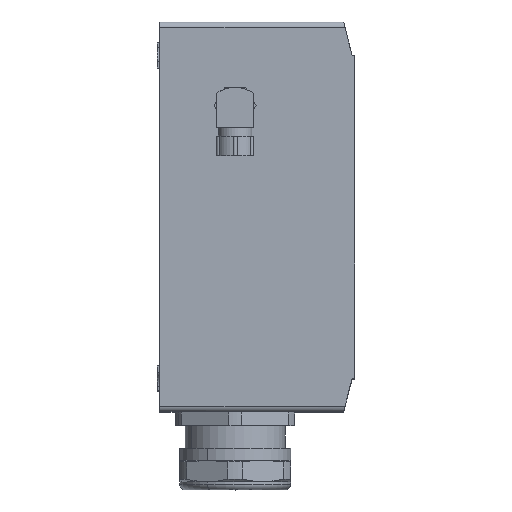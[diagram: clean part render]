
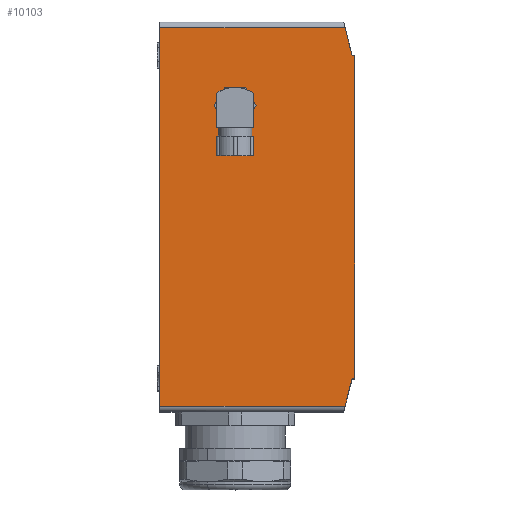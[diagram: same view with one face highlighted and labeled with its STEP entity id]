
A CAD part, top view. The second image highlights one B-rep face of the part: STEP entity #10103.
In plain terms, the highlighted planar face has unit normal (0, 0, 1) as drawn and (0, 0, -1) by its records, which use the part's own axes.
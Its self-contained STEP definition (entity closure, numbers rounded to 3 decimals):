
#147 = CARTESIAN_POINT ( 'NONE',  ( -112.15, 25., -113.5 ) ) ;
#153 = PLANE ( 'NONE',  #463 ) ;
#155 = DIRECTION ( 'NONE',  ( 0., 0., 1. ) ) ;
#156 = DIRECTION ( 'NONE',  ( 0., 1., 0. ) ) ;
#463 = AXIS2_PLACEMENT_3D ( 'NONE', #147, #155, #156 ) ;
#2205 = EDGE_LOOP ( 'NONE', ( #6678, #7065, #7031, #7049, #7027, #6984 ) ) ;
#2268 = EDGE_LOOP ( 'NONE', ( #6670, #6694, #6671, #6825, #6945, #6688, #6250, #6676 ) ) ;
#6250 = ORIENTED_EDGE ( 'NONE', *, *, #17420, .T. ) ;
#6670 = ORIENTED_EDGE ( 'NONE', *, *, #17319, .F. ) ;
#6671 = ORIENTED_EDGE ( 'NONE', *, *, #17417, .F. ) ;
#6676 = ORIENTED_EDGE ( 'NONE', *, *, #17302, .T. ) ;
#6678 = ORIENTED_EDGE ( 'NONE', *, *, #17299, .F. ) ;
#6688 = ORIENTED_EDGE ( 'NONE', *, *, #17423, .F. ) ;
#6694 = ORIENTED_EDGE ( 'NONE', *, *, #17411, .F. ) ;
#6825 = ORIENTED_EDGE ( 'NONE', *, *, #17402, .T. ) ;
#6945 = ORIENTED_EDGE ( 'NONE', *, *, #17324, .F. ) ;
#6984 = ORIENTED_EDGE ( 'NONE', *, *, #17277, .F. ) ;
#7027 = ORIENTED_EDGE ( 'NONE', *, *, #17307, .F. ) ;
#7031 = ORIENTED_EDGE ( 'NONE', *, *, #17263, .F. ) ;
#7049 = ORIENTED_EDGE ( 'NONE', *, *, #17258, .F. ) ;
#7065 = ORIENTED_EDGE ( 'NONE', *, *, #17298, .F. ) ;
#10103 = ADVANCED_FACE ( 'NONE', ( #17222, #17217 ), #153, .F. ) ;
#10804 = VERTEX_POINT ( 'NONE', #15677 ) ;
#10915 = VERTEX_POINT ( 'NONE', #12776 ) ;
#11144 = VERTEX_POINT ( 'NONE', #13154 ) ;
#11218 = VERTEX_POINT ( 'NONE', #13311 ) ;
#11231 = VERTEX_POINT ( 'NONE', #13319 ) ;
#11300 = VERTEX_POINT ( 'NONE', #13442 ) ;
#11336 = VERTEX_POINT ( 'NONE', #13522 ) ;
#11381 = VERTEX_POINT ( 'NONE', #13613 ) ;
#11420 = VERTEX_POINT ( 'NONE', #13686 ) ;
#11440 = VERTEX_POINT ( 'NONE', #13727 ) ;
#11476 = VERTEX_POINT ( 'NONE', #13796 ) ;
#11581 = VERTEX_POINT ( 'NONE', #13964 ) ;
#12776 = CARTESIAN_POINT ( 'NONE',  ( -4.15, 7.506, -113.5 ) ) ;
#13154 = CARTESIAN_POINT ( 'NONE',  ( -10.65, 3.753, -113.5 ) ) ;
#13311 = CARTESIAN_POINT ( 'NONE',  ( 2.35, 3.753, -113.5 ) ) ;
#13319 = CARTESIAN_POINT ( 'NONE',  ( -4.15, -7.506, -113.5 ) ) ;
#13378 = LINE ( 'NONE', #14714, #13417 ) ;
#13408 = LINE ( 'NONE', #14726, #13422 ) ;
#13417 = VECTOR ( 'NONE', #14717, 1000. ) ;
#13422 = VECTOR ( 'NONE', #14729, 1000. ) ;
#13442 = CARTESIAN_POINT ( 'NONE',  ( -102.15, 43., -113.5 ) ) ;
#13454 = LINE ( 'NONE', #14758, #13473 ) ;
#13473 = VECTOR ( 'NONE', #14754, 1000. ) ;
#13522 = CARTESIAN_POINT ( 'NONE',  ( -10.65, -3.753, -113.5 ) ) ;
#13547 = LINE ( 'NONE', #14807, #13558 ) ;
#13556 = LINE ( 'NONE', #14814, #13564 ) ;
#13558 = VECTOR ( 'NONE', #14813, 1000. ) ;
#13564 = VECTOR ( 'NONE', #14815, 1000. ) ;
#13571 = LINE ( 'NONE', #14820, #13581 ) ;
#13581 = VECTOR ( 'NONE', #14822, 1000. ) ;
#13599 = LINE ( 'NONE', #14830, #13607 ) ;
#13607 = VECTOR ( 'NONE', #14831, 1000. ) ;
#13613 = CARTESIAN_POINT ( 'NONE',  ( -102.15, 42., -113.5 ) ) ;
#13636 = LINE ( 'NONE', #14843, #13640 ) ;
#13640 = VECTOR ( 'NONE', #14851, 1000. ) ;
#13650 = LINE ( 'NONE', #14861, #13658 ) ;
#13658 = VECTOR ( 'NONE', #14862, 1000. ) ;
#13686 = CARTESIAN_POINT ( 'NONE',  ( 2.35, -3.753, -113.5 ) ) ;
#13727 = CARTESIAN_POINT ( 'NONE',  ( 13.85, 43., -113.5 ) ) ;
#13796 = CARTESIAN_POINT ( 'NONE',  ( 13.85, 42., -113.5 ) ) ;
#13813 = LINE ( 'NONE', #14953, #13821 ) ;
#13821 = VECTOR ( 'NONE', #14954, 1000. ) ;
#13832 = LINE ( 'NONE', #14974, #13841 ) ;
#13841 = VECTOR ( 'NONE', #14975, 1000. ) ;
#13847 = LINE ( 'NONE', #14980, #13857 ) ;
#13857 = VECTOR ( 'NONE', #14981, 1000. ) ;
#13860 = LINE ( 'NONE', #14984, #13867 ) ;
#13864 = LINE ( 'NONE', #14986, #13875 ) ;
#13867 = VECTOR ( 'NONE', #14985, 1000. ) ;
#13875 = VECTOR ( 'NONE', #14987, 1000. ) ;
#13964 = CARTESIAN_POINT ( 'NONE',  ( 23.85, 39.5, -113.5 ) ) ;
#14231 = CARTESIAN_POINT ( 'NONE',  ( -112.15, -27., -113.5 ) ) ;
#14534 = CARTESIAN_POINT ( 'NONE',  ( 23.85, -27., -113.5 ) ) ;
#14714 = CARTESIAN_POINT ( 'NONE',  ( -4.15, 7.506, -113.5 ) ) ;
#14717 = DIRECTION ( 'NONE',  ( 0.866, -0.5, 0. ) ) ;
#14726 = CARTESIAN_POINT ( 'NONE',  ( 2.35, -3.753, -113.5 ) ) ;
#14729 = DIRECTION ( 'NONE',  ( 0., -1., 0. ) ) ;
#14754 = DIRECTION ( 'NONE',  ( 0., 1., 0. ) ) ;
#14758 = CARTESIAN_POINT ( 'NONE',  ( -10.65, -3.753, -113.5 ) ) ;
#14807 = CARTESIAN_POINT ( 'NONE',  ( -4.15, -7.506, -113.5 ) ) ;
#14813 = DIRECTION ( 'NONE',  ( -0.866, -0.5, 0. ) ) ;
#14814 = CARTESIAN_POINT ( 'NONE',  ( -10.65, -3.753, -113.5 ) ) ;
#14815 = DIRECTION ( 'NONE',  ( -0.866, 0.5, 0. ) ) ;
#14820 = CARTESIAN_POINT ( 'NONE',  ( -112.15, -27., -113.5 ) ) ;
#14822 = DIRECTION ( 'NONE',  ( -1., 0., 0. ) ) ;
#14830 = CARTESIAN_POINT ( 'NONE',  ( -10.65, 3.753, -113.5 ) ) ;
#14831 = DIRECTION ( 'NONE',  ( 0.866, 0.5, 0. ) ) ;
#14843 = CARTESIAN_POINT ( 'NONE',  ( -112.15, 25., -113.5 ) ) ;
#14851 = DIRECTION ( 'NONE',  ( 0., -1., 0. ) ) ;
#14861 = CARTESIAN_POINT ( 'NONE',  ( 13.85, 42., -113.5 ) ) ;
#14862 = DIRECTION ( 'NONE',  ( 0., 1., 0. ) ) ;
#14953 = CARTESIAN_POINT ( 'NONE',  ( 23.85, 43., -113.5 ) ) ;
#14954 = DIRECTION ( 'NONE',  ( 1., 0., 0. ) ) ;
#14974 = CARTESIAN_POINT ( 'NONE',  ( -114.15, 39., -113.5 ) ) ;
#14975 = DIRECTION ( 'NONE',  ( -0.97, -0.243, 0. ) ) ;
#14980 = CARTESIAN_POINT ( 'NONE',  ( -102.15, 42., -113.5 ) ) ;
#14981 = DIRECTION ( 'NONE',  ( 0., -1., 0. ) ) ;
#14984 = CARTESIAN_POINT ( 'NONE',  ( 23.85, 25., -113.5 ) ) ;
#14985 = DIRECTION ( 'NONE',  ( 0., -1., 0. ) ) ;
#14986 = CARTESIAN_POINT ( 'NONE',  ( 25.85, 39., -113.5 ) ) ;
#14987 = DIRECTION ( 'NONE',  ( -0.97, 0.243, 0. ) ) ;
#15677 = CARTESIAN_POINT ( 'NONE',  ( -112.15, 39.5, -113.5 ) ) ;
#16064 = VERTEX_POINT ( 'NONE', #14231 ) ;
#16253 = VERTEX_POINT ( 'NONE', #14534 ) ;
#17217 = FACE_BOUND ( 'NONE', #2205, .T. ) ;
#17222 = FACE_OUTER_BOUND ( 'NONE', #2268, .T. ) ;
#17258 = EDGE_CURVE ( 'NONE', #10915, #11218, #13378, .T. ) ;
#17263 = EDGE_CURVE ( 'NONE', #11218, #11420, #13408, .T. ) ;
#17277 = EDGE_CURVE ( 'NONE', #11336, #11144, #13454, .T. ) ;
#17298 = EDGE_CURVE ( 'NONE', #11420, #11231, #13547, .T. ) ;
#17299 = EDGE_CURVE ( 'NONE', #11231, #11336, #13556, .T. ) ;
#17302 = EDGE_CURVE ( 'NONE', #16253, #16064, #13571, .T. ) ;
#17307 = EDGE_CURVE ( 'NONE', #11144, #10915, #13599, .T. ) ;
#17319 = EDGE_CURVE ( 'NONE', #10804, #16064, #13636, .T. ) ;
#17324 = EDGE_CURVE ( 'NONE', #11476, #11440, #13650, .T. ) ;
#17402 = EDGE_CURVE ( 'NONE', #11300, #11440, #13813, .T. ) ;
#17411 = EDGE_CURVE ( 'NONE', #11381, #10804, #13832, .T. ) ;
#17417 = EDGE_CURVE ( 'NONE', #11300, #11381, #13847, .T. ) ;
#17420 = EDGE_CURVE ( 'NONE', #11581, #16253, #13860, .T. ) ;
#17423 = EDGE_CURVE ( 'NONE', #11581, #11476, #13864, .T. ) ;
